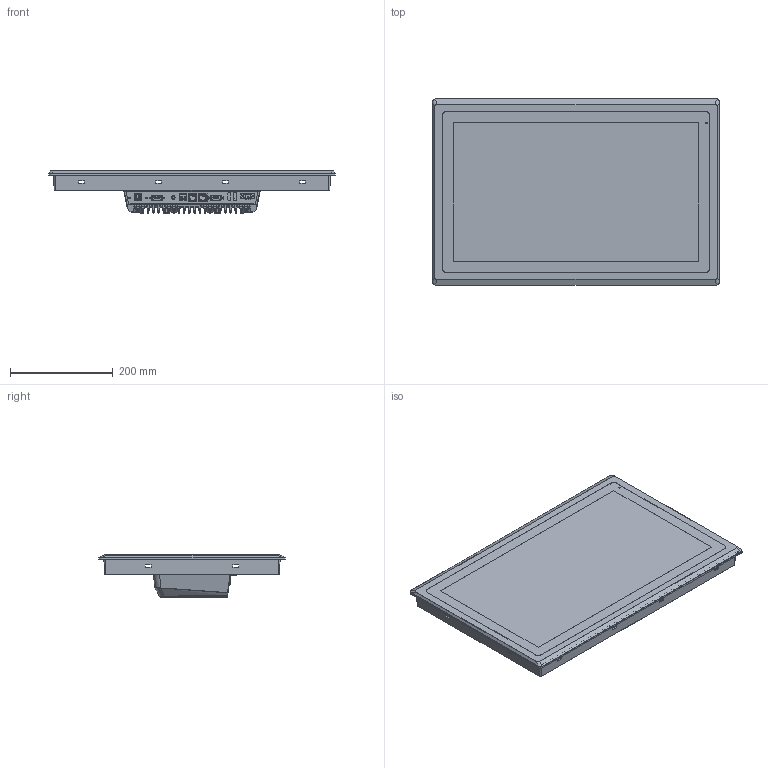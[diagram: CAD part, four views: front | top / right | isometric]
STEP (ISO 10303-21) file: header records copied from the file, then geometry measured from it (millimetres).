
FILE_DESCRIPTION (( 'STEP AP214' ), '1' );
FILE_NAME ('OMI6821C.STEP', '2025-06-25T17:39:43', ( '' ), ( '' ), 'SwSTEP 2.0', 'SolidWorks 2019', '' );
FILE_SCHEMA (( 'AUTOMOTIVE_DESIGN' ));
Length unit declared in the file: inch
Products named in the file (1): OMI6821C
Bounding box: 557.31 x 362.31 x 81.8 mm (x, y, z)
Surface area: 794943.5 mm2 (no closed solid volume)
Topology: 0 solids, 60 shells, 1415 faces, 5574 edges, 3992 vertices
Faces by surface type: cylinder 595, plane 460, bspline 232, cone 100, torus 28
Entity records: 90146 total; most frequent: CARTESIAN_POINT 29470, ORIENTED_EDGE 8050, DIRECTION 7866, EDGE_CURVE 5556, VERTEX_POINT 3992, VECTOR 2904, LINE 2904, AXIS2_PLACEMENT_3D 2481
